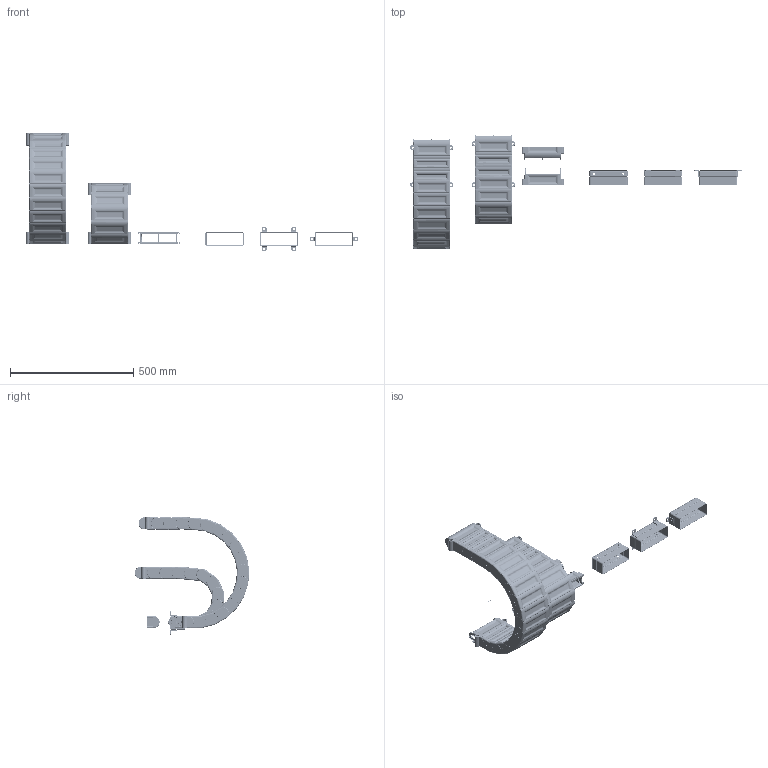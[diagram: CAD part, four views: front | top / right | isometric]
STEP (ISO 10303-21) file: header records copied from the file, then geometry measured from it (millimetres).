
FILE_DESCRIPTION((''),'2;1');
FILE_NAME('C:\Uebbing\PARAMETERKETTEN\PFR\PFR 223\PFR223.stp','2013-10-15T13:02:10',('Uebbing'),(''),'Autodesk Inventor 10','Autodesk Inventor 10','');
FILE_SCHEMA(('AUTOMOTIVE_DESIGN { 1 0 10303 214 1 1 1 1 }'));
Length unit declared in the file: millimetre
Products named in the file (15): PFR 223 STEP; PFR 223 R100; Achse; PFR 223 Kunststoffanschluß; PFR223 Normalaschluss; PFR 223 Stirnflansch Aussen; PFR 223 Stirnflansch Innen; PFR 223 Anschluss A; Anschlusswinkel mit Verschraubung; Anschlusswinkel; Rändelmutter M6 flach; Imbusschraube M6x5 Senkkopf; PFR 223 Anschluss B; PFR223 Anschluss B; PFR 223 R200
Assembly tree (49 placements, depth 4):
  PFR 223 STEP
    PFR 223 R100  x10
    Achse
    PFR 223 Kunststoffanschluß  x2
    PFR223 Normalaschluss
    PFR 223 Stirnflansch Aussen
    PFR 223 Stirnflansch Innen
    PFR 223 Anschluss A
      PFR223 Normalaschluss
      Anschlusswinkel mit Verschraubung  x4
        Anschlusswinkel
        Rändelmutter M6 flach
        Imbusschraube M6x5 Senkkopf
    PFR 223 Anschluss B
      PFR223 Anschluss B
      Anschlusswinkel mit Verschraubung  x2
        Anschlusswinkel
        Rändelmutter M6 flach
        Imbusschraube M6x5 Senkkopf
    PFR 223 R200
      PFR 223 R100  x16
      Achse
      PFR 223 Kunststoffanschluß  x2
Bounding box: 1344.89 x 463.75 x 476 mm (x, y, z)
Volume: 3733511.1 mm3; surface area: 1890912.7 mm2
Topology: 55 solids, 55 shells, 5024 faces, 13246 edges, 8292 vertices
Faces by surface type: cylinder 1704, bspline 1434, plane 1251, torus 611, cone 24
Full cylindrical faces by diameter (mm): 1 x2, 3.5 x64, 5 x8, 6 x12, 6.5 x6, 8.5 x8, 9 x16, 9.2 x6, 11 x6, 12 x6, 14 x16
Entity records: 39915 total; most frequent: CARTESIAN_POINT 16614, ORIENTED_EDGE 4792, DIRECTION 4754, EDGE_CURVE 2396, AXIS2_PLACEMENT_3D 1809, VERTEX_POINT 1482, VECTOR 1136, LINE 1136
